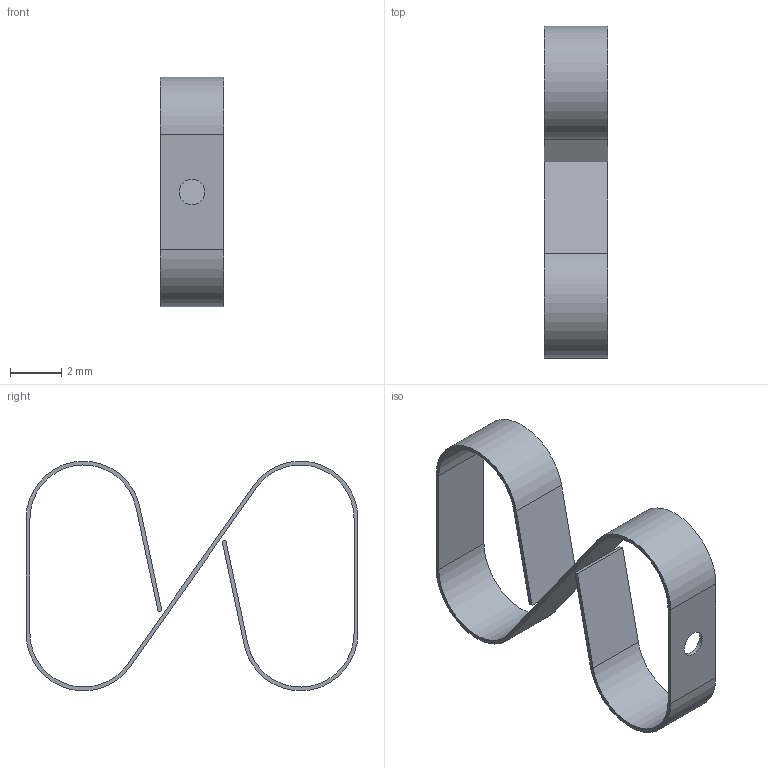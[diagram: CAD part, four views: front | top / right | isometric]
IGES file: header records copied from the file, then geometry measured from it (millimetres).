
Start section:  PTC IGES file: 8S2590130B.igs
Global section: file name: 8S2590130B.igs; native system: Creo Parametric by PTC Inc.; preprocessor: 2015200; author: jairo; organization: Unknown; date: 20180327.142746; units: millimetre
Bounding box: 2.5 x 13 x 9 mm (x, y, z)
Surface area: 263 mm2 (no closed solid volume)
Topology: 0 solids, 0 shells, 24 faces, 132 edges, 132 vertices
Faces by surface type: bspline 14, revolution 10
